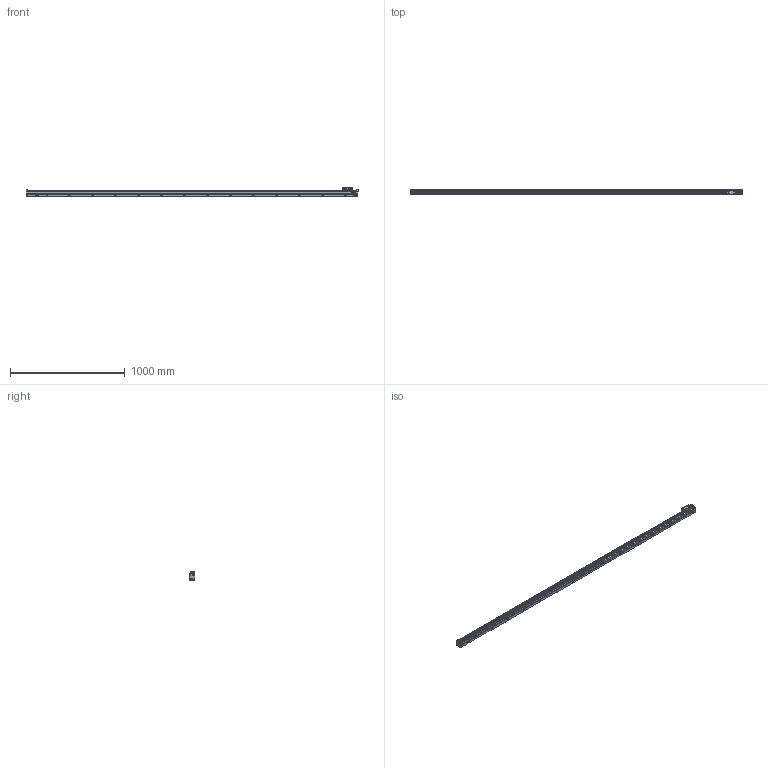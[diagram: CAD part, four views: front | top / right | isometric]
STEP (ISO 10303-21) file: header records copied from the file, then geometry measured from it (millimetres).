
FILE_DESCRIPTION(('Creo Elements/Direct Modeling STEP Export'),'2;1');
FILE_NAME('REGLA_L3_2640_T.stp','2020-12-16T11:30:27',(''),(''),'Creo Elements/Direct Modeling STEP processor for AP214 (Solid Model)','Creo Elements/Direct Modeling 19.0G 27-Nov-2017 (C) Parametric Technology GmbH','');
FILE_SCHEMA(('AUTOMOTIVE_DESIGN { 1 0 10303 214 1 1 1 1 }'));
Length unit declared in the file: millimetre
Products named in the file (3): REGLA_L3_2640; CABEZA_L3_T; REGLA_L3_2640_T
Assembly tree (2 placements, depth 2):
  REGLA_L3_2640_T
    CABEZA_L3_T
    REGLA_L3_2640
Bounding box: 2890 x 50 x 85 mm (x, y, z)
Volume: 7575934 mm3; surface area: 749089 mm2
Topology: 2 solids, 2 shells, 1571 faces, 4187 edges, 2694 vertices
Faces by surface type: plane 773, cylinder 482, cone 196, bspline 63, torus 51, extrusion 6
Entity records: 68040 total; most frequent: CARTESIAN_POINT 24154, ORIENTED_EDGE 8354, DIRECTION 7396, EDGE_CURVE 4177, VERTEX_POINT 2694, AXIS2_PLACEMENT_3D 2479, VECTOR 2438, LINE 2432
